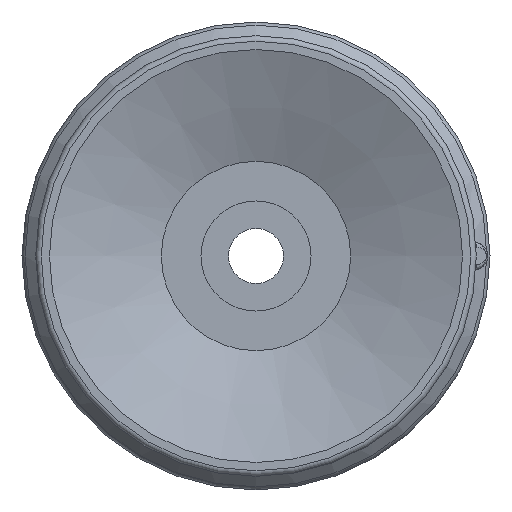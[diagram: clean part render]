
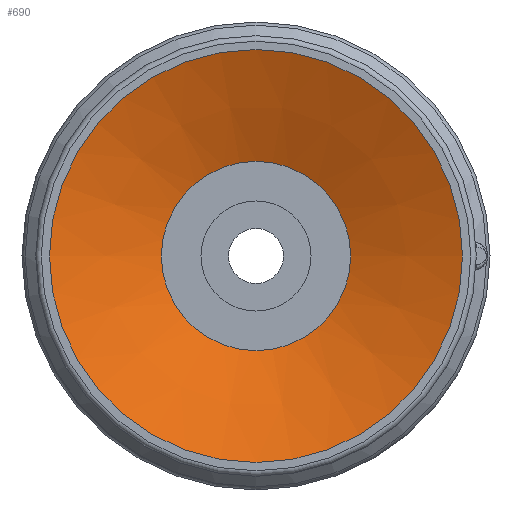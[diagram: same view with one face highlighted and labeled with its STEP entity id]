
A CAD part, front view. The second image highlights one B-rep face of the part: STEP entity #690.
In plain terms, the highlighted conical face has half-angle 67.5 degrees and reference radius 3.437 mm.
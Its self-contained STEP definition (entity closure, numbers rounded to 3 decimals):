
#690=ADVANCED_FACE('',(#960,#961),#962,.F.);
#960=FACE_BOUND('',#2284,.T.);
#961=FACE_OUTER_BOUND('',#2285,.T.);
#962=CONICAL_SURFACE('',#2286,3.437,1.178);
#2284=EDGE_LOOP('',(#2953));
#2285=EDGE_LOOP('',(#2954));
#2286=AXIS2_PLACEMENT_3D('',#2955,#2956,#2957);
#2953=ORIENTED_EDGE('',*,*,#3278,.F.);
#2954=ORIENTED_EDGE('',*,*,#3282,.T.);
#2955=CARTESIAN_POINT('',(0.0,0.0,1.683));
#2956=DIRECTION('',(0.0,0.,-1.0));
#2957=DIRECTION('',(0.0,1.0,0.));
#3278=EDGE_CURVE('',#3603,#3603,#3604,.T.);
#3282=EDGE_CURVE('',#3611,#3611,#3612,.T.);
#3603=VERTEX_POINT('',#4472);
#3604=CIRCLE('',#4473,3.437);
#3611=VERTEX_POINT('',#4480);
#3612=CIRCLE('',#4481,7.5);
#4472=CARTESIAN_POINT('',(-3.437,0.0,1.683));
#4473=AXIS2_PLACEMENT_3D('',#4809,#4810,#4811);
#4480=CARTESIAN_POINT('',(-7.5,0.0,0.));
#4481=AXIS2_PLACEMENT_3D('',#4821,#4822,#4823);
#4809=CARTESIAN_POINT('',(0.0,0.0,1.683));
#4810=DIRECTION('',(0.0,0.,-1.0));
#4811=DIRECTION('',(0.0,1.0,0.));
#4821=CARTESIAN_POINT('',(0.0,0.0,0.));
#4822=DIRECTION('',(0.0,0.,-1.0));
#4823=DIRECTION('',(0.0,1.0,0.));
